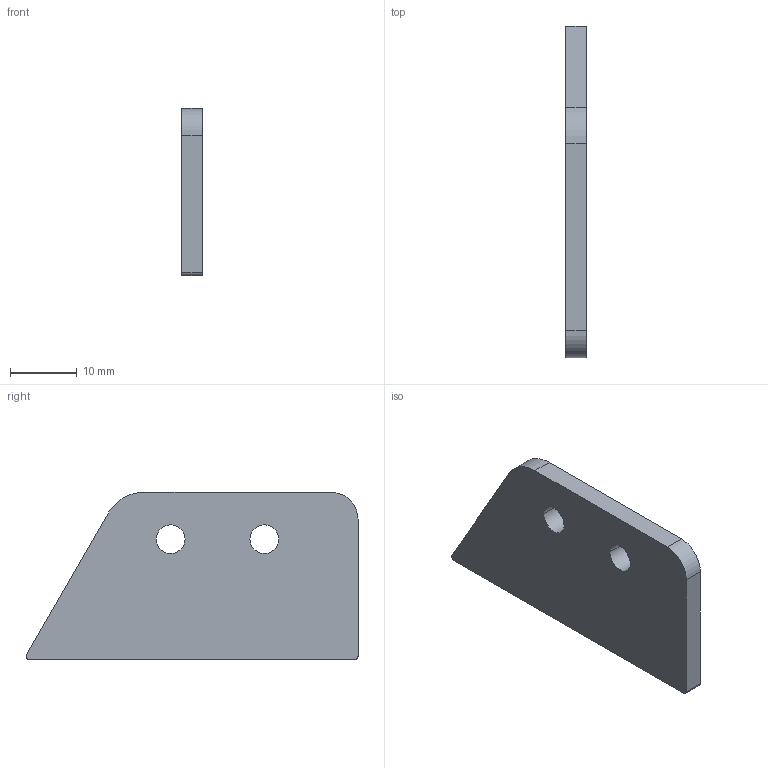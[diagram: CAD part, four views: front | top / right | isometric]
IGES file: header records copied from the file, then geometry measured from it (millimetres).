
Start section: START RECORD GO HERE.
Global section: file name: 20M_AE_12002 (chape cable avant).igs; native system: IBM CATIA IGES - CATIA Version 5 Release 19 ; preprocessor: CATIA Version 5 Release 19 ; author: mik75; organization: LAPTOP-SUH344G9; date: 20200115.235859; units: millimetre
Bounding box: 3 x 49.63 x 25 mm (x, y, z)
Surface area: 2559.2 mm2 (no closed solid volume)
Topology: 0 solids, 0 shells, 14 faces, 72 edges, 72 vertices
Faces by surface type: revolution 8, plane 6
